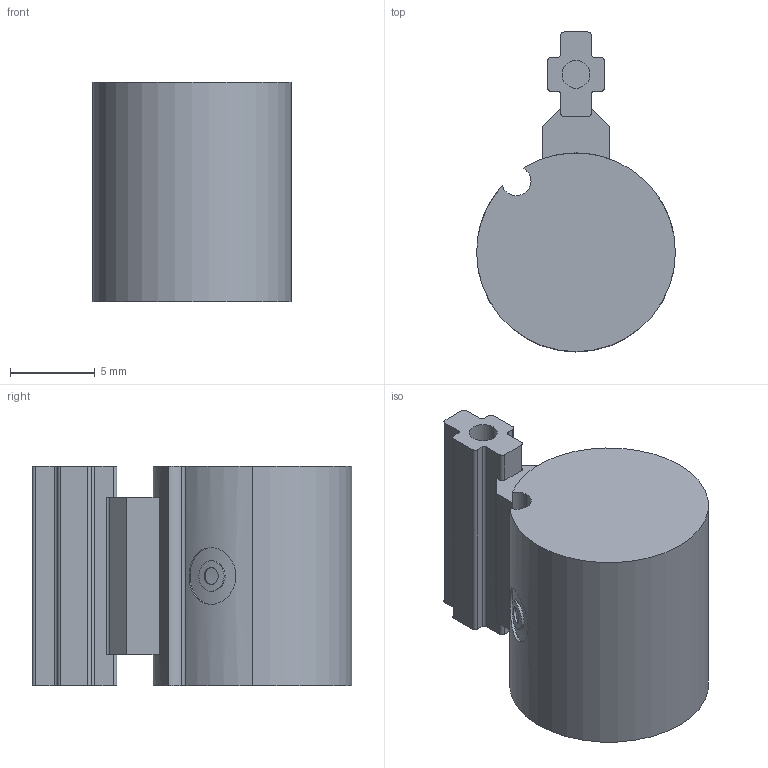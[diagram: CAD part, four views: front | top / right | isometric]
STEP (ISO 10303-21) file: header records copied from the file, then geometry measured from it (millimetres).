
FILE_DESCRIPTION (( 'STEP AP214' ), '1' );
FILE_NAME ('Lever arm.STEP', '2024-05-13T21:04:34', ( '' ), ( '' ), 'SwSTEP 2.0', 'SolidWorks 2020', '' );
FILE_SCHEMA (( 'AUTOMOTIVE_DESIGN' ));
Length unit declared in the file: millimetre
Products named in the file (1): Lever arm
Bounding box: 11.75 x 18.9 x 13 mm (x, y, z)
Volume: 1611.2 mm3; surface area: 1000.4 mm2
Topology: 1 solids, 1 shells, 67 faces, 171 edges, 114 vertices
Faces by surface type: cylinder 30, plane 29, bspline 8
Entity records: 2305 total; most frequent: CARTESIAN_POINT 647, ORIENTED_EDGE 342, DIRECTION 331, EDGE_CURVE 171, AXIS2_PLACEMENT_3D 116, VERTEX_POINT 114, VECTOR 99, LINE 99
